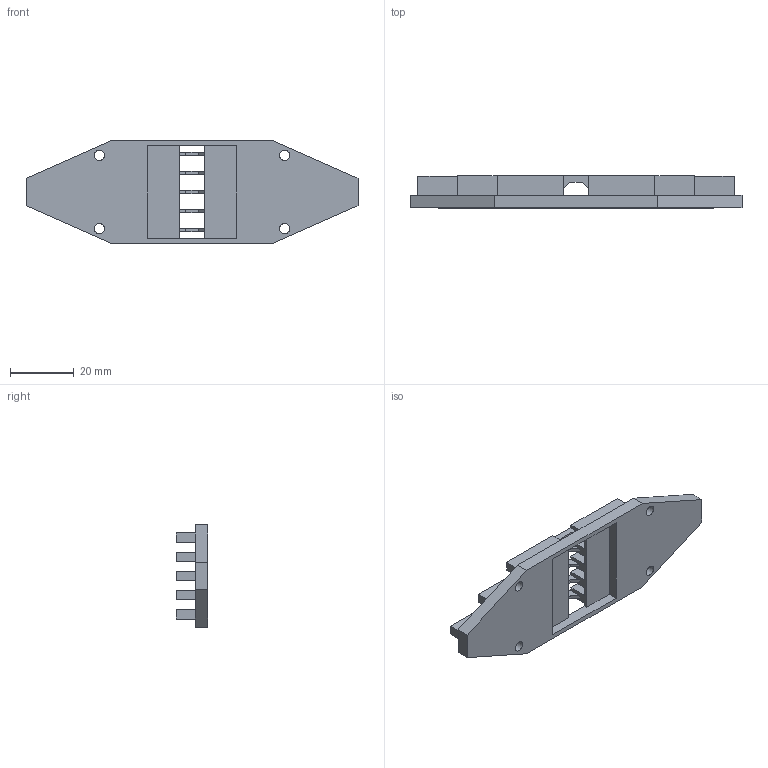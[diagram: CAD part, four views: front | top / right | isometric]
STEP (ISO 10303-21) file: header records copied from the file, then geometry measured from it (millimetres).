
FILE_DESCRIPTION(/* description */ (''),/* implementation_level */ '2;1');
FILE_NAME(/* name */ '1-23-1 Rear light bottom.step',/* time_stamp */ '2025-05-10T21:35:03+02:00',/* author */ (''),/* organization */ (''),/* preprocessor_version */ 'ST-DEVELOPER v20.1',/* originating_system */ 'Autodesk Translation Framework v14.4.0.0',/* authorisation */ '');
FILE_SCHEMA (('AUTOMOTIVE_DESIGN { 1 0 10303 214 3 1 1 }'));
Length unit declared in the file: millimetre
Products named in the file (1): 1-23-1 Rear light bottom
Bounding box: 104 x 10 x 32 mm (x, y, z)
Volume: 13640.7 mm3; surface area: 10681.2 mm2
Topology: 1 solids, 1 shells, 82 faces, 270 edges, 180 vertices
Faces by surface type: plane 78, cylinder 4
Full cylindrical faces by diameter (mm): 3.2 x4
Entity records: 2982 total; most frequent: ORIENTED_EDGE 540, CARTESIAN_POINT 533, DIRECTION 444, EDGE_CURVE 270, LINE 262, VECTOR 262, VERTEX_POINT 180, EDGE_LOOP 92
